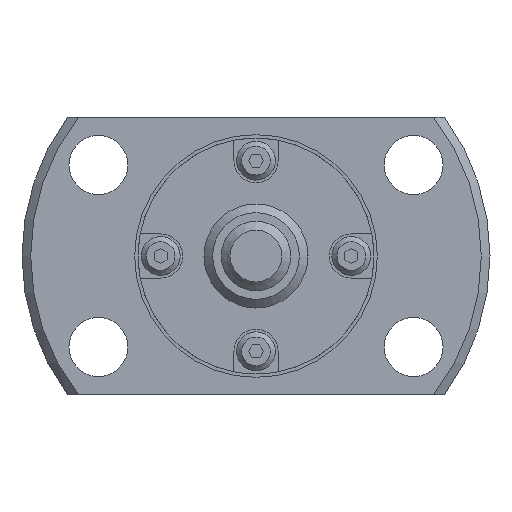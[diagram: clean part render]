
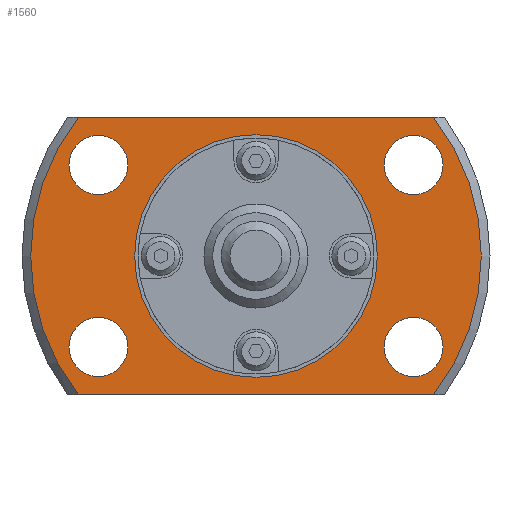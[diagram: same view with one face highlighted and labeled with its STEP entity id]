
A CAD part, left-side view. The second image highlights one B-rep face of the part: STEP entity #1560.
In plain terms, the highlighted planar face has unit normal (-1, 0, 0).
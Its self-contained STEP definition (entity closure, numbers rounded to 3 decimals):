
#127=LINE('',#2558,#247);
#128=LINE('',#2562,#248);
#247=VECTOR('',#2056,1000.);
#248=VECTOR('',#2059,1000.);
#453=ORIENTED_EDGE('',*,*,#821,.T.);
#454=ORIENTED_EDGE('',*,*,#822,.T.);
#455=ORIENTED_EDGE('',*,*,#823,.T.);
#456=ORIENTED_EDGE('',*,*,#824,.T.);
#457=ORIENTED_EDGE('',*,*,#778,.F.);
#458=ORIENTED_EDGE('',*,*,#825,.T.);
#459=ORIENTED_EDGE('',*,*,#826,.F.);
#460=ORIENTED_EDGE('',*,*,#827,.T.);
#461=ORIENTED_EDGE('',*,*,#820,.T.);
#778=EDGE_CURVE('',#976,#977,#1097,.T.);
#820=EDGE_CURVE('',#1013,#1013,#1118,.T.);
#821=EDGE_CURVE('',#1014,#1014,#1119,.T.);
#822=EDGE_CURVE('',#1015,#1015,#1120,.T.);
#823=EDGE_CURVE('',#1016,#1016,#1121,.T.);
#824=EDGE_CURVE('',#1017,#1017,#1122,.T.);
#825=EDGE_CURVE('',#976,#1018,#127,.T.);
#826=EDGE_CURVE('',#1019,#1018,#1123,.T.);
#827=EDGE_CURVE('',#1019,#977,#128,.T.);
#976=VERTEX_POINT('',#2451);
#977=VERTEX_POINT('',#2453);
#1013=VERTEX_POINT('',#2548);
#1014=VERTEX_POINT('',#2551);
#1015=VERTEX_POINT('',#2553);
#1016=VERTEX_POINT('',#2555);
#1017=VERTEX_POINT('',#2557);
#1018=VERTEX_POINT('',#2559);
#1019=VERTEX_POINT('',#2561);
#1097=CIRCLE('',#1705,13.);
#1118=CIRCLE('',#1734,6.8);
#1119=CIRCLE('',#1736,1.7);
#1120=CIRCLE('',#1737,1.7);
#1121=CIRCLE('',#1738,1.7);
#1122=CIRCLE('',#1739,1.7);
#1123=CIRCLE('',#1740,13.);
#1206=EDGE_LOOP('',(#453));
#1207=EDGE_LOOP('',(#454));
#1208=EDGE_LOOP('',(#455));
#1209=EDGE_LOOP('',(#456));
#1210=EDGE_LOOP('',(#457,#458,#459,#460));
#1211=EDGE_LOOP('',(#461));
#1364=FACE_BOUND('',#1206,.T.);
#1365=FACE_BOUND('',#1207,.T.);
#1366=FACE_BOUND('',#1208,.T.);
#1367=FACE_BOUND('',#1209,.T.);
#1368=FACE_BOUND('',#1210,.T.);
#1369=FACE_BOUND('',#1211,.T.);
#1480=PLANE('',#1735);
#1560=ADVANCED_FACE('',(#1364,#1365,#1366,#1367,#1368,#1369),#1480,.F.);
#1705=AXIS2_PLACEMENT_3D('',#2452,#1968,#1969);
#1734=AXIS2_PLACEMENT_3D('',#2547,#2044,#2045);
#1735=AXIS2_PLACEMENT_3D('',#2549,#2046,#2047);
#1736=AXIS2_PLACEMENT_3D('',#2550,#2048,#2049);
#1737=AXIS2_PLACEMENT_3D('',#2552,#2050,#2051);
#1738=AXIS2_PLACEMENT_3D('',#2554,#2052,#2053);
#1739=AXIS2_PLACEMENT_3D('',#2556,#2054,#2055);
#1740=AXIS2_PLACEMENT_3D('',#2560,#2057,#2058);
#1968=DIRECTION('',(1.,0.,0.));
#1969=DIRECTION('',(0.,0.,-1.));
#2044=DIRECTION('',(1.,0.,0.));
#2045=DIRECTION('',(0.,0.,-1.));
#2046=DIRECTION('',(1.,0.,0.));
#2047=DIRECTION('',(0.,0.,-1.));
#2048=DIRECTION('',(1.,0.,0.));
#2049=DIRECTION('',(0.,0.,-1.));
#2050=DIRECTION('',(1.,0.,0.));
#2051=DIRECTION('',(0.,0.,-1.));
#2052=DIRECTION('',(1.,0.,0.));
#2053=DIRECTION('',(0.,0.,-1.));
#2054=DIRECTION('',(1.,0.,0.));
#2055=DIRECTION('',(0.,0.,-1.));
#2056=DIRECTION('',(0.,-1.,0.));
#2057=DIRECTION('',(1.,0.,0.));
#2058=DIRECTION('',(0.,0.,-1.));
#2059=DIRECTION('',(0.,1.,0.));
#2451=CARTESIAN_POINT('',(8.,10.247,-8.));
#2452=CARTESIAN_POINT('',(8.,0.,0.));
#2453=CARTESIAN_POINT('',(8.,10.247,8.));
#2547=CARTESIAN_POINT('',(8.,0.,0.));
#2548=CARTESIAN_POINT('',(8.,0.,-6.8));
#2549=CARTESIAN_POINT('',(8.,6.8,0.));
#2550=CARTESIAN_POINT('',(8.,-9.093,-5.25));
#2551=CARTESIAN_POINT('',(8.,-9.093,-6.95));
#2552=CARTESIAN_POINT('',(8.,-9.093,5.25));
#2553=CARTESIAN_POINT('',(8.,-9.093,3.55));
#2554=CARTESIAN_POINT('',(8.,9.093,-5.25));
#2555=CARTESIAN_POINT('',(8.,9.093,-6.95));
#2556=CARTESIAN_POINT('',(8.,9.093,5.25));
#2557=CARTESIAN_POINT('',(8.,9.093,3.55));
#2558=CARTESIAN_POINT('',(8.,6.8,-8.));
#2559=CARTESIAN_POINT('',(8.,-10.247,-8.));
#2560=CARTESIAN_POINT('',(8.,0.,0.));
#2561=CARTESIAN_POINT('',(8.,-10.247,8.));
#2562=CARTESIAN_POINT('',(8.,6.8,8.));
